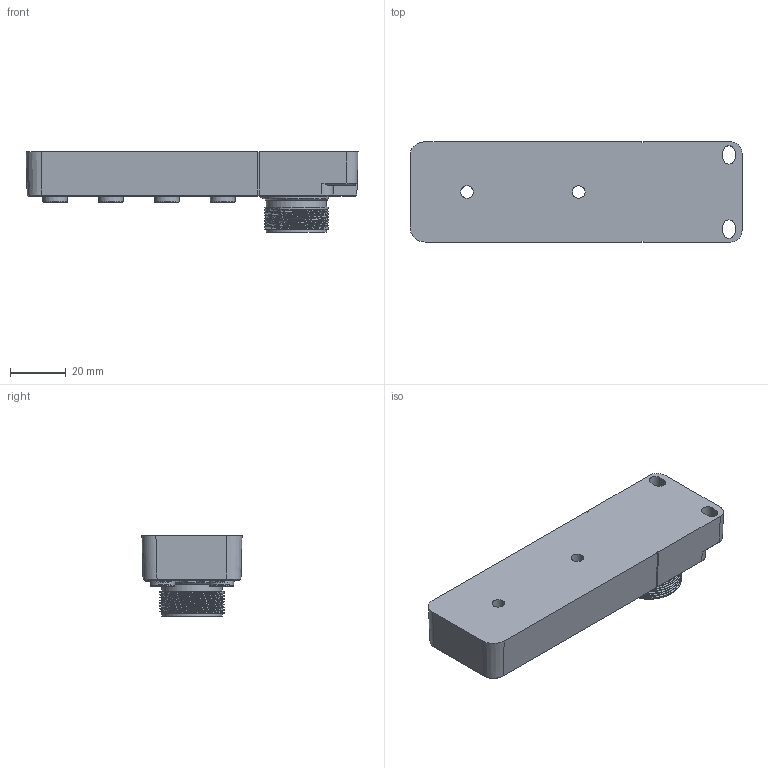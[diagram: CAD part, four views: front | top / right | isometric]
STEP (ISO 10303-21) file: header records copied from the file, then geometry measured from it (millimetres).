
FILE_DESCRIPTION(/* description */ (''),/* implementation_level */ '2;1');
FILE_NAME(/* name */ 'D8M8-3S-M23.stp',/* time_stamp */ '2024-01-17T11:49:21+08:00',/* author */ (''),/* organization */ (''),/* preprocessor_version */ 'ST-DEVELOPER v16.7',/* originating_system */ 'SIEMENS PLM Software NX 12.0',/* authorisation */ '');
FILE_SCHEMA (('AP203_CONFIGURATION_CONTROLLED_3D_DESIGN_OF_MECHANICAL_PARTS_AND_ASSEMBLIES_MIM_LF { 1 0 10303 403 2 1 2}'));
Products named in the file (1): Admi5DE852FBdzf4
Bounding box: 118.84 x 35.84 x 28.8 mm (x, y, z)
Volume: 64611.4 mm3; surface area: 31119 mm2
Topology: 10 solids, 69 shells, 1467 faces, 3607 edges, 2397 vertices
Faces by surface type: plane 839, cylinder 374, cone 116, bspline 50, torus 37, sphere 28, extrusion 23
Full cylindrical faces by diameter (mm): 1 x59, 1.1 x38, 1.4 x24, 1.5 x27, 1.6 x3, 1.9 x42, 2 x44, 2.4 x9, 2.5 x9, 4.5 x2, 9 x8, 21.5 x2, 23 x1
Entity records: 53218 total; most frequent: CARTESIAN_POINT 21689, DIRECTION 6450, ORIENTED_EDGE 5736, EDGE_CURVE 2868, AXIS2_PLACEMENT_3D 2406, EDGE_LOOP 2133, VERTEX_POINT 2091, VECTOR 1638
